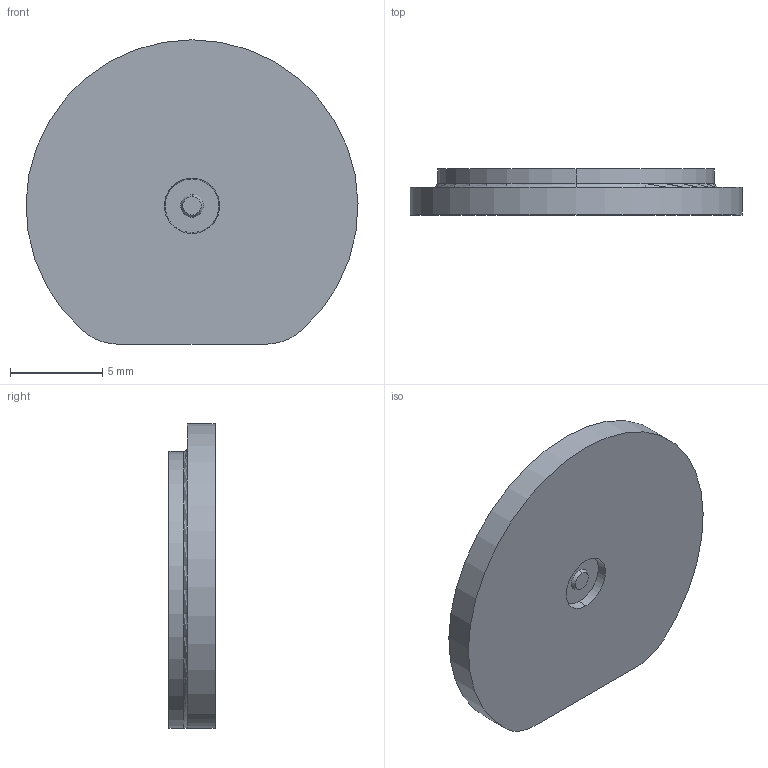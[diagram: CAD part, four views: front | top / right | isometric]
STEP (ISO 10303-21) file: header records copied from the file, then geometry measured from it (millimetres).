
FILE_DESCRIPTION(('FreeCAD Model'),'2;1');
FILE_NAME('Open CASCADE Shape Model','2022-08-08T09:43:59',('Author'),( ''),'Open CASCADE STEP processor 7.6','FreeCAD','Unknown');
FILE_SCHEMA(('AUTOMOTIVE_DESIGN { 1 0 10303 214 1 1 1 1 }'));
Length unit declared in the file: millimetre
Products named in the file (1): MAG18
Bounding box: 18 x 2.5 x 16.5 mm (x, y, z)
Volume: 540 mm3; surface area: 619.8 mm2
Topology: 1 solids, 1 shells, 17 faces, 36 edges, 23 vertices
Faces by surface type: plane 6, cylinder 5, cone 4, torus 2
Entity records: 1043 total; most frequent: CARTESIAN_POINT 277, DIRECTION 149, ORIENTED_EDGE 72, PCURVE 72, DEFINITIONAL_REPRESENTATION 72, LINE 63, VECTOR 63, AXIS2_PLACEMENT_3D 39
